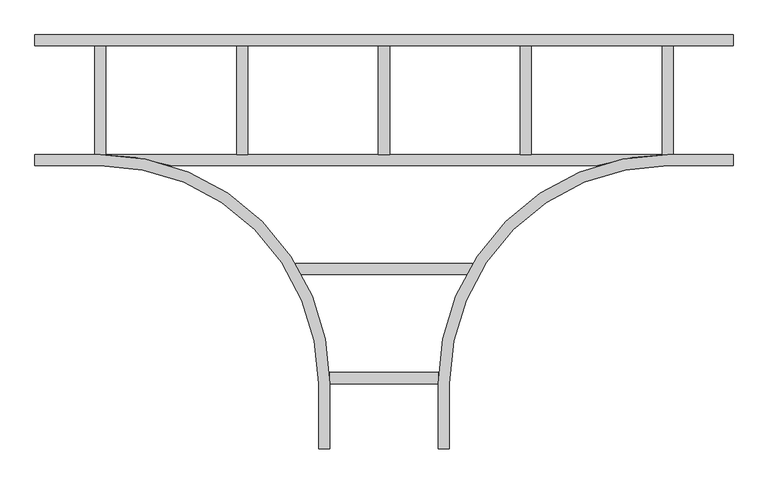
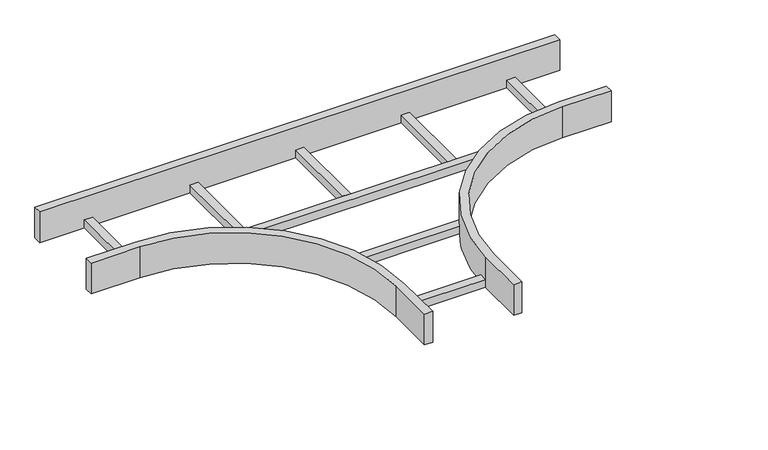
"""IFC4 building model written with IfcOpenShell, lengths in millimetres: cable carrier fitting geometry, BAKS_LDLS_TEE_Ladder horizontal tee_TDS : TDSC_H100."""

from ifc_helpers import new_model, si_unit, frame, origin, place, context, project, spatial, polyline, circle_curve, outline, extrude, faceted_brep, source, transform, mapped, element, save
from ifc_brep_helpers import plane_surface, cylinder_surface, revolved_surface, advanced_brep


def cable_carrier_fitting_abdd8f1c(model_context):
    return source(origin(), model_context, "Body", "SolidModel", [
        extrude(outline(polyline([(202.5628536, -374.6), (202.5628536, -400.0), (-202.5628536, -400.0), (-202.5628536, -374.6), (202.5628536, -374.6)])), frame((0.0, 0.0, -50.0), z_axis=(0.0, 0.0, 1.0), x_axis=(1.0, 0.0, 0.0)), (0.0, 0.0, 1.0), 25.4),
        extrude(outline(polyline([(124.6, -624.6), (124.6, -650.0), (-124.6, -650.0), (-124.6, -624.6), (124.6, -624.6)])), frame((0.0, 0.0, -50.0), z_axis=(0.0, 0.0, 1.0), x_axis=(1.0, 0.0, 0.0)), (0.0, 0.0, 1.0), 25.4),
        extrude(outline(polyline([(662.7, 124.6), (662.7, -124.6), (637.3, -124.6), (637.3, 124.6), (662.7, 124.6)])), frame((0.0, 0.0, -50.0), z_axis=(0.0, 0.0, 1.0), x_axis=(1.0, 0.0, 0.0)), (0.0, 0.0, 1.0), 25.4),
        extrude(outline(polyline([(337.7, 124.6), (337.7, -124.6), (312.3, -124.6), (312.3, 124.6), (337.7, 124.6)])), frame((0.0, 0.0, -50.0), z_axis=(0.0, 0.0, 1.0), x_axis=(1.0, 0.0, 0.0)), (0.0, 0.0, 1.0), 25.4),
        extrude(outline(polyline([(12.7, 124.6), (12.7, -124.6), (-12.7, -124.6), (-12.7, 124.6), (12.7, 124.6)])), frame((0.0, 0.0, -50.0), z_axis=(0.0, 0.0, 1.0), x_axis=(1.0, 0.0, 0.0)), (0.0, 0.0, 1.0), 25.4),
        extrude(outline(polyline([(-312.3, 124.6), (-312.3, -124.6), (-337.7, -124.6), (-337.7, 124.6), (-312.3, 124.6)])), frame((0.0, 0.0, -50.0), z_axis=(0.0, 0.0, 1.0), x_axis=(1.0, 0.0, 0.0)), (0.0, 0.0, 1.0), 25.4),
        extrude(outline(polyline([(-637.3, 124.6), (-637.3, -124.6), (-662.7, -124.6), (-662.7, 124.6), (-637.3, 124.6)])), frame((0.0, 0.0, -50.0), z_axis=(0.0, 0.0, 1.0), x_axis=(1.0, 0.0, 0.0)), (0.0, 0.0, 1.0), 25.4),
        advanced_brep(
        [(-150.0, -650.0, 50.0), (-150.0, -800.0, 50.0), (-124.6, -800.0, 50.0), (-124.6, -650.0, 50.0), (-650.0, -124.6, 50.0), (-800.0, -124.6, 50.0), (-800.0, -150.0, 50.0), (-650.0, -150.0, 50.0), (150.0, -650.0, 50.0), (650.0, -150.0, 50.0), (800.0, -150.0, 50.0), (800.0, -124.6, 50.0), (650.0, -124.6, 50.0), (124.6, -650.0, 50.0), (124.6, -800.0, 50.0), (150.0, -800.0, 50.0), (-150.0, -650.0, -50.0), (-650.0, -150.0, -50.0), (-800.0, -150.0, -50.0), (-800.0, -124.6, -50.0), (800.0, -124.6, -50.0), (800.0, -150.0, -50.0), (650.0, -150.0, -50.0), (150.0, -650.0, -50.0), (150.0, -800.0, -50.0), (124.6, -800.0, -50.0), (124.6, -650.0, -50.0), (488.6148706, -150.0, -50.0), (-488.6148706, -150.0, -50.0), (-124.6, -650.0, -50.0), (-124.6, -800.0, -50.0), (-150.0, -800.0, -50.0), (-488.6148706, -150.0, -24.6), (-650.0, -124.6, -24.6), (650.0, -124.6, -24.6), (-650.0, -150.0, -24.6), (650.0, -150.0, -24.6), (488.6148706, -150.0, -24.6)],
        [
            (0, 1),
            (1, 2),
            (2, 3),
            (3, 4, circle_curve(frame((-650.0, -650.0, 50.0), z_axis=(0.0, 0.0, 1.0), x_axis=(1.0, 0.0, 0.0)), 525.4)),
            (4, 5),
            (5, 6),
            (6, 7),
            (7, 0, circle_curve(frame((-650.0, -650.0, 50.0), z_axis=(0.0, 0.0, -1.0), x_axis=(1.0, 0.0, 0.0)), 500.0)),
            (8, 9, circle_curve(frame((650.0, -650.0, 50.0), z_axis=(0.0, 0.0, -1.0), x_axis=(1.0, 0.0, 0.0)), 500.0)),
            (9, 10),
            (10, 11),
            (11, 12),
            (12, 13, circle_curve(frame((650.0, -650.0, 50.0), z_axis=(0.0, 0.0, 1.0), x_axis=(1.0, 0.0, 0.0)), 525.4)),
            (13, 14),
            (14, 15),
            (15, 8),
            (16, 17, circle_curve(frame((-650.0, -650.0, -50.0), z_axis=(0.0, 0.0, 1.0), x_axis=(1.0, 0.0, 0.0)), 500.0)),
            (17, 18),
            (18, 19),
            (19, 20),
            (20, 21),
            (21, 22),
            (22, 23, circle_curve(frame((650.0, -650.0, -50.0), z_axis=(0.0, 0.0, 1.0), x_axis=(1.0, 0.0, 0.0)), 500.0)),
            (23, 24),
            (24, 25),
            (25, 26),
            (26, 27, circle_curve(frame((650.0, -650.0, -50.0), z_axis=(0.0, 0.0, -1.0), x_axis=(1.0, 0.0, 0.0)), 525.4)),
            (27, 28),
            (28, 29, circle_curve(frame((-650.0, -650.0, -50.0), z_axis=(0.0, 0.0, -1.0), x_axis=(1.0, 0.0, 0.0)), 525.4)),
            (29, 30),
            (30, 31),
            (31, 16),
            (0, 16),
            (31, 1),
            (30, 2),
            (29, 3),
            (28, 32),
            (32, 33, circle_curve(frame((-650.0, -650.0, -24.6), z_axis=(0.0, 0.0, 1.0), x_axis=(1.0, 0.0, 0.0)), 525.4)),
            (33, 4),
            (33, 34),
            (34, 12),
            (11, 20),
            (19, 5),
            (18, 6),
            (17, 35),
            (35, 7),
            (8, 23),
            (22, 36),
            (36, 9),
            (21, 10),
            (34, 37, circle_curve(frame((650.0, -650.0, -24.6), z_axis=(0.0, 0.0, 1.0), x_axis=(1.0, 0.0, 0.0)), 525.4)),
            (37, 27),
            (26, 13),
            (25, 14),
            (24, 15),
            (32, 37),
        ],
        [
            plane_surface(frame((-150.0, -650.0, 50.0), z_axis=(0.0, 0.0, 1.0), x_axis=(0.0, -1.0, 0.0))),
            plane_surface(frame((-150.0, -650.0, -50.0), z_axis=(0.0, 0.0, -1.0), x_axis=(0.0, 1.0, 0.0))),
            plane_surface(frame((-150.0, -650.0, 50.0), z_axis=(-1.0, 0.0, 0.0), x_axis=(0.0, 0.0, -1.0))),
            plane_surface(frame((-150.0, -800.0, 50.0), z_axis=(0.0, -1.0, 0.0), x_axis=(0.0, 0.0, -1.0))),
            plane_surface(frame((-124.6, -800.0, 50.0), z_axis=(1.0, 0.0, 0.0), x_axis=(0.0, 0.0, -1.0))),
            cylinder_surface(frame((-650.0, -650.0, -50.0), z_axis=(0.0, 0.0, 1.0), x_axis=(1.0, 0.0, 0.0)), 525.4),
            plane_surface(frame((-650.0, -124.6, 50.0), z_axis=(0.0, 1.0, 0.0), x_axis=(0.0, 0.0, -1.0))),
            plane_surface(frame((-800.0, -124.6, 50.0), z_axis=(-1.0, 0.0, 0.0), x_axis=(0.0, 0.0, -1.0))),
            plane_surface(frame((-800.0, -150.0, 50.0), z_axis=(0.0, -1.0, 0.0), x_axis=(0.0, 0.0, -1.0))),
            revolved_surface(polyline([(-150.0, -650.0, -50.0), (-150.0, -650.0, 50.0)]), (-650.0, -650.0, -50.0), (0.0, 0.0, -1.0)),
            revolved_surface(polyline([(1150.0, -650.0, -50.0), (1150.0, -650.0, 50.0)]), (650.0, -650.0, 0.0), (0.0, 0.0, -1.0)),
            plane_surface(frame((650.0, -150.0, 50.0), z_axis=(0.0, -1.0, 0.0), x_axis=(0.0, 0.0, -1.0))),
            plane_surface(frame((800.0, -150.0, 50.0), z_axis=(1.0, 0.0, 0.0), x_axis=(0.0, 0.0, -1.0))),
            cylinder_surface(frame((650.0, -650.0, 0.0), z_axis=(0.0, 0.0, 1.0), x_axis=(1.0, 0.0, 0.0)), 525.4),
            plane_surface(frame((124.6, -650.0, 50.0), z_axis=(-1.0, 0.0, 0.0), x_axis=(0.0, 0.0, -1.0))),
            plane_surface(frame((124.6, -800.0, 50.0), z_axis=(0.0, -1.0, 0.0), x_axis=(0.0, 0.0, -1.0))),
            plane_surface(frame((150.0, -800.0, 50.0), z_axis=(1.0, 0.0, 0.0), x_axis=(0.0, 0.0, -1.0))),
            plane_surface(frame((-650.0, -124.6, -24.6), z_axis=(0.0, 0.0, 1.0), x_axis=(-1.0, 0.0, 0.0))),
            plane_surface(frame((-650.0, -150.0, -24.6), z_axis=(0.0, -1.0, 0.0), x_axis=(0.0, 0.0, -1.0))),
        ],
        [
            (0, [[1, 2, 3, 4, 5, 6, 7, 8]]),
            (0, [[9, 10, 11, 12, 13, 14, 15, 16]]),
            (1, [[17, 18, 19, 20, 21, 22, 23, 24, 25, 26, 27, 28, 29, 30, 31, 32]]),
            (2, [[-1, 33, -32, 34]]),
            (3, [[-2, -34, -31, 35]]),
            (4, [[-3, -35, -30, 36]]),
            (5, [[-4, -36, -29, 37, 38, 39]]),
            (6, [[-5, -39, 40, 41, -12, 42, -20, 43]]),
            (7, [[-6, -43, -19, 44]]),
            (8, [[-7, -44, -18, 45, 46]]),
            (9, [[-8, -46, -45, -17, -33]]),
            (10, [[-9, 47, -23, 48, 49]]),
            (11, [[-10, -49, -48, -22, 50]]),
            (12, [[-11, -50, -21, -42]]),
            (13, [[-13, -41, 51, 52, -27, 53]]),
            (14, [[-14, -53, -26, 54]]),
            (15, [[-15, -54, -25, 55]]),
            (16, [[-16, -55, -24, -47]]),
            (17, [[-40, -38, 56, -51]]),
            (18, [[-28, -52, -56, -37]]),
        ],
    ),
        faceted_brep([(800.0, 150.0, 50.0), (-800.0, 150.0, 50.0), (-800.0, 124.6, 50.0), (800.0, 124.6, 50.0), (800.0, 150.0, -50.0), (800.0, 124.6, -50.0), (-800.0, 124.6, -50.0), (-800.0, 150.0, -50.0)], [[[0, 1, 2, 3]], [[4, 5, 6, 7]], [[1, 0, 4, 7]], [[2, 1, 7, 6]], [[3, 2, 6, 5]], [[0, 3, 5, 4]]]),
    ])


if __name__ == "__main__":
    model = new_model("IFC4")
    model_context = context("Model", 3, world=origin())
    ifc_project = project(units=[si_unit("LENGTHUNIT", "METRE", prefix="MILLI")], contexts=[model_context])
    site = spatial("IfcSite", under=ifc_project)
    building = spatial("IfcBuilding", under=site)
    placement = place(None, origin())
    cable_carrier_fitting_shape = cable_carrier_fitting_abdd8f1c(model_context)
    element("IfcCableCarrierFitting", 1, ObjectType="BAKS_LDLS_TEE_Ladder horizontal tee_TDS : TDSC_H100", at=placement, inside=building, context=model_context, shape_type="MappedRepresentation", body=[
        mapped(cable_carrier_fitting_shape, transform((0.0, 0.0, 0.0), x_axis=(1.0, 0.0, 0.0), y_axis=(0.0, 1.0, 0.0), z_axis=(0.0, 0.0, 1.0))),
    ])
    save(model, "model.ifc")
